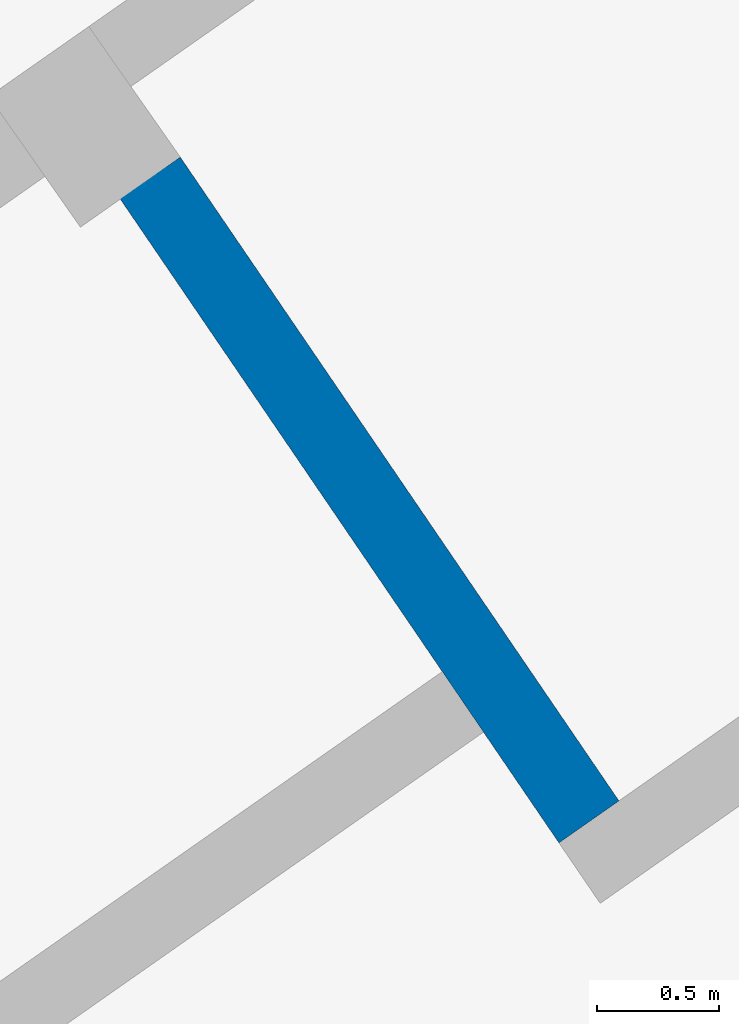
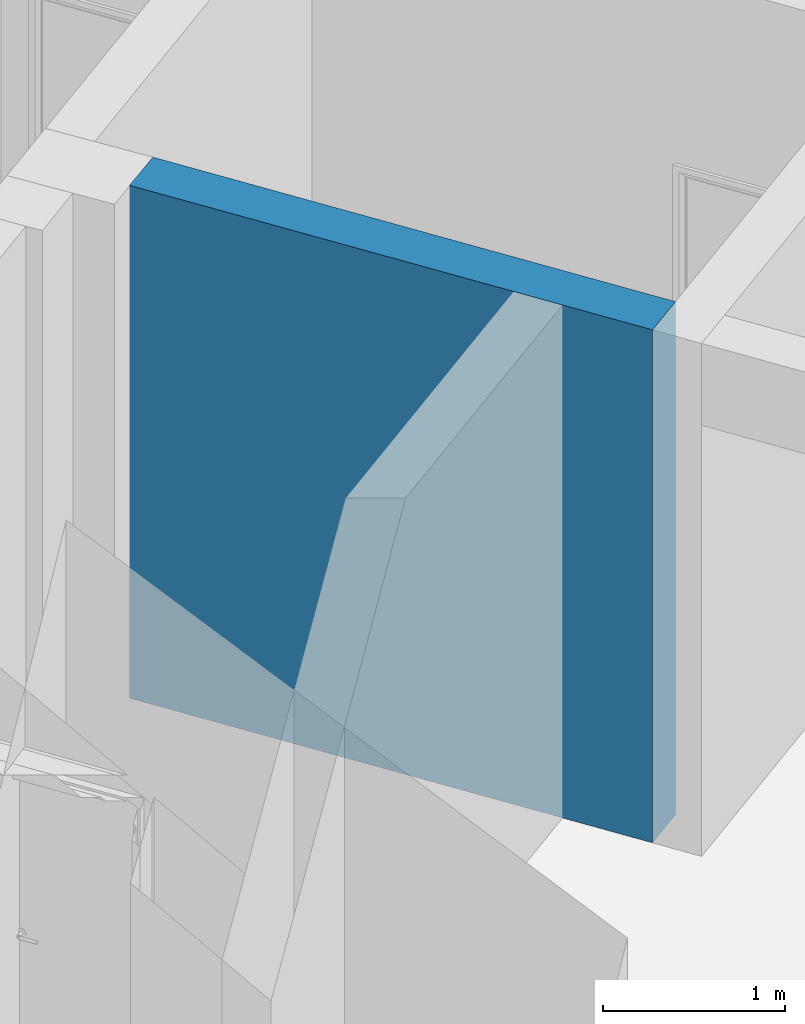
# One storey, part 32 of 112: 1 wall.
"""IFC2X3 building model written with IfcOpenShell, lengths in millimetres."""

from ifc_helpers import new_model, entity, si_unit, converted_unit, derived_unit, direction, frame, origin, place, context, subcontext, project, spatial, polyline, outline, extrude, material, layer, layer_set, layer_usage, type_object, element, save


model = new_model("IFC2X3")

# Units and contexts
model_context = context("Model", 3, precision=0.01, world=origin(), true_north=direction((6.123031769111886e-17, 1.0)))
body_context = subcontext(model_context, "Body", "Model", "MODEL_VIEW")
ifc_project = project(units=[si_unit("LENGTHUNIT", "METRE", prefix="MILLI"), si_unit("AREAUNIT", "SQUARE_METRE"), si_unit("VOLUMEUNIT", "CUBIC_METRE"), converted_unit("PLANEANGLEUNIT", "DEGREE", entity("IfcRatioMeasure", 0.017453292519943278), si_unit("PLANEANGLEUNIT", "RADIAN"), dimensions=[0, 0, 0, 0, 0, 0, 0]), si_unit("MASSUNIT", "GRAM", prefix="KILO"), derived_unit("MASSDENSITYUNIT", [(si_unit("MASSUNIT", "GRAM", prefix="KILO"), 1), (si_unit("LENGTHUNIT", "METRE"), -3)]), derived_unit("MOMENTOFINERTIAUNIT", [(si_unit("LENGTHUNIT", "METRE"), 4)]), si_unit("TIMEUNIT", "SECOND"), si_unit("FREQUENCYUNIT", "HERTZ"), si_unit("THERMODYNAMICTEMPERATUREUNIT", "DEGREE_CELSIUS"), derived_unit("THERMALTRANSMITTANCEUNIT", [(si_unit("MASSUNIT", "GRAM", prefix="KILO"), 1), (si_unit("THERMODYNAMICTEMPERATUREUNIT", "KELVIN"), -1), (si_unit("TIMEUNIT", "SECOND"), -3)]), derived_unit("THERMALCONDUCTANCEUNIT", [(si_unit("MASSUNIT", "GRAM", prefix="KILO"), 1), (si_unit("LENGTHUNIT", "METRE"), 1), (si_unit("THERMODYNAMICTEMPERATUREUNIT", "KELVIN"), -1), (si_unit("TIMEUNIT", "SECOND"), -3)]), derived_unit("VOLUMETRICFLOWRATEUNIT", [(si_unit("LENGTHUNIT", "METRE"), 3), (si_unit("TIMEUNIT", "SECOND"), -1)]), derived_unit("MASSFLOWRATEUNIT", [(si_unit("MASSUNIT", "GRAM", prefix="KILO"), 1), (si_unit("TIMEUNIT", "SECOND"), -1)]), derived_unit("ROTATIONALFREQUENCYUNIT", [(si_unit("TIMEUNIT", "SECOND"), -1)]), si_unit("ELECTRICCURRENTUNIT", "AMPERE"), si_unit("ELECTRICVOLTAGEUNIT", "VOLT"), si_unit("POWERUNIT", "WATT"), converted_unit("FORCEUNIT", "KIP", entity("IfcRatioMeasure", 2.088543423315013e-05), si_unit("FORCEUNIT", "NEWTON"), dimensions=[1, 1, -2, 0, 0, 0, 0]), si_unit("ILLUMINANCEUNIT", "LUX"), si_unit("LUMINOUSFLUXUNIT", "LUMEN"), si_unit("LUMINOUSINTENSITYUNIT", "CANDELA"), derived_unit("USERDEFINED", [(si_unit("MASSUNIT", "GRAM", prefix="KILO"), -1), (si_unit("LENGTHUNIT", "METRE"), -2), (si_unit("TIMEUNIT", "SECOND"), 3), (si_unit("LUMINOUSFLUXUNIT", "LUMEN"), 1)]), derived_unit("USERDEFINED", [(si_unit("MASSUNIT", "GRAM", prefix="KILO"), 1), (si_unit("LENGTHUNIT", "METRE"), 3), (si_unit("TIMEUNIT", "SECOND"), -3), (si_unit("ELECTRICCURRENTUNIT", "AMPERE"), -2)]), derived_unit("USERDEFINED", [(si_unit("LENGTHUNIT", "METRE"), 2), (si_unit("TIMEUNIT", "SECOND"), -2)]), derived_unit("SOUNDPOWERUNIT", [(si_unit("MASSUNIT", "GRAM", prefix="KILO"), 1), (si_unit("LENGTHUNIT", "METRE"), 2), (si_unit("TIMEUNIT", "SECOND"), -3)]), derived_unit("SOUNDPRESSUREUNIT", [(si_unit("MASSUNIT", "GRAM", prefix="KILO"), 1), (si_unit("LENGTHUNIT", "METRE"), -1), (si_unit("TIMEUNIT", "SECOND"), -2)]), derived_unit("LINEARVELOCITYUNIT", [(si_unit("LENGTHUNIT", "METRE"), 1), (si_unit("TIMEUNIT", "SECOND"), -1)]), si_unit("PRESSUREUNIT", "PASCAL"), derived_unit("USERDEFINED", [(si_unit("LENGTHUNIT", "METRE"), -2), (si_unit("MASSUNIT", "GRAM", prefix="KILO"), 1), (si_unit("TIMEUNIT", "SECOND"), -2)]), derived_unit("LINEARFORCEUNIT", [(si_unit("MASSUNIT", "GRAM", prefix="KILO"), 1), (si_unit("LENGTHUNIT", "METRE"), 1), (si_unit("TIMEUNIT", "SECOND"), -2), (si_unit("LENGTHUNIT", "METRE"), -1)]), derived_unit("PLANARFORCEUNIT", [(si_unit("MASSUNIT", "GRAM", prefix="KILO"), 1), (si_unit("LENGTHUNIT", "METRE"), 1), (si_unit("TIMEUNIT", "SECOND"), -2), (si_unit("LENGTHUNIT", "METRE"), -2)]), derived_unit("SPECIFICHEATCAPACITYUNIT", [(si_unit("LENGTHUNIT", "METRE"), 2), (si_unit("TIMEUNIT", "SECOND"), -2), (si_unit("THERMODYNAMICTEMPERATUREUNIT", "KELVIN"), -1)]), derived_unit("VAPORPERMEABILITYUNIT", [(si_unit("TIMEUNIT", "SECOND"), 1), (si_unit("LENGTHUNIT", "METRE"), -1)]), derived_unit("DYNAMICVISCOSITYUNIT", [(si_unit("MASSUNIT", "GRAM", prefix="KILO"), 1), (si_unit("LENGTHUNIT", "METRE"), -1), (si_unit("TIMEUNIT", "SECOND"), -1)]), derived_unit("THERMALEXPANSIONCOEFFICIENTUNIT", [(si_unit("THERMODYNAMICTEMPERATUREUNIT", "KELVIN"), -1)])], contexts=[model_context])

# Site, building, storey
site_placement = place(None, frame((0.0, 0.0, 0.0), z_axis=(0.0, 0.0, 1.0), x_axis=(0.8191520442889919, 0.5735764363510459, 0.0)))
site = spatial("IfcSite", under=ifc_project, at=site_placement, Name="Default", CompositionType="ELEMENT")
building_placement = place(site_placement, origin())
building = spatial("IfcBuilding", under=site, at=building_placement, CompositionType="ELEMENT")
storey_placement = place(building_placement, frame((0.0, 0.0, -3600.0)))
storey = spatial("IfcBuildingStorey", under=building, at=storey_placement, Name="0.UG -3.60", CompositionType="ELEMENT", Elevation=-3600.0000000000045)

# Wall
ifc_material = material(Name="Analytical Wall Surface_CJC")
ifc_layer = layer(ifc_material, 300.0)
ifc_layer_set = layer_set([ifc_layer], Name="Basic Wall:Wand_Innen_30")
ifc_layer_usage = layer_usage(ifc_layer_set, "AXIS2", "NEGATIVE", 150.0)
wall_type = type_object("IfcWallType", Name="Basic Wall:Wand_Innen_30", PredefinedType="STANDARD", material=ifc_layer_set)
wall_placement = place(storey_placement, frame((-217196.2991200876, 105994.4494762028, 0.0), z_axis=(0.0, 0.0, 1.0), x_axis=(0.01272958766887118, 0.9999189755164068, 0.0)))
element("IfcWallStandardCase", 1, at=wall_placement, inside=storey, type_object=wall_type, material=ifc_layer_usage, Name="Basic Wall:Wand_Innen_30", ObjectType="Basic Wall:Wand_Innen_30", context=body_context, shape_type="SweptSolid", body=[
    extrude(outline(polyline([(3200.259299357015, -150.0), (3200.259299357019, 150.0), (850.0688763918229, 150.0), (550.0445670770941, 150.0), (0.0, 150.0), (3.819185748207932, -150.0), (3200.259299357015, -150.0)])), origin(), (0.0, 0.0, 1.0), 3450.0),
])

save(model, "model.ifc")
